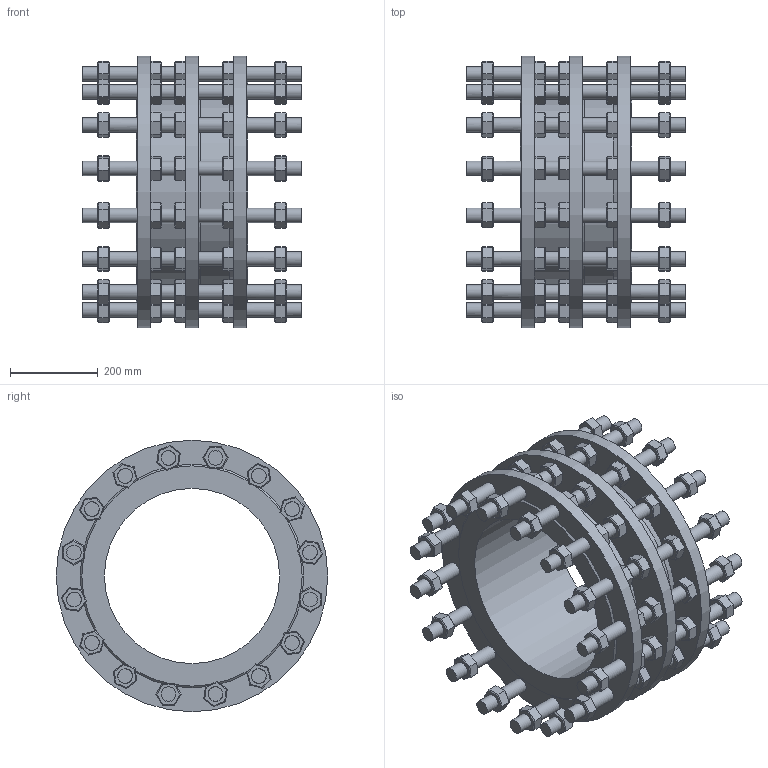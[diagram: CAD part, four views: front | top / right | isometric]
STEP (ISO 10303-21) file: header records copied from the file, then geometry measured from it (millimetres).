
FILE_DESCRIPTION (( 'STEP AP203' ), '1' );
FILE_NAME ('873040000741000.STEP', '2021-11-05T09:39:00', ( '' ), ( '' ), 'SwSTEP 2.0', 'SolidWorks 2020', '' );
FILE_SCHEMA (( 'CONFIG_CONTROL_DESIGN' ));
Length unit declared in the file: millimetre
Products named in the file (1): 873040000741000
Bounding box: 500 x 620 x 620 mm (x, y, z)
Volume: 27612077.7 mm3; surface area: 3056143.5 mm2
Topology: 81 solids, 81 shells, 1955 faces, 4203 edges, 2449 vertices
Faces by surface type: plane 1641, cone 163, cylinder 151
Full cylindrical faces by diameter (mm): 33 x144, 400 x1, 425 x1, 445 x1, 461 x1, 620 x3
Entity records: 49073 total; most frequent: DIRECTION 8206, CARTESIAN_POINT 8170, ORIENTED_EDGE 7654, EDGE_CURVE 3827, VECTOR 3360, LINE 3360, EDGE_LOOP 2534, AXIS2_PLACEMENT_3D 2423
